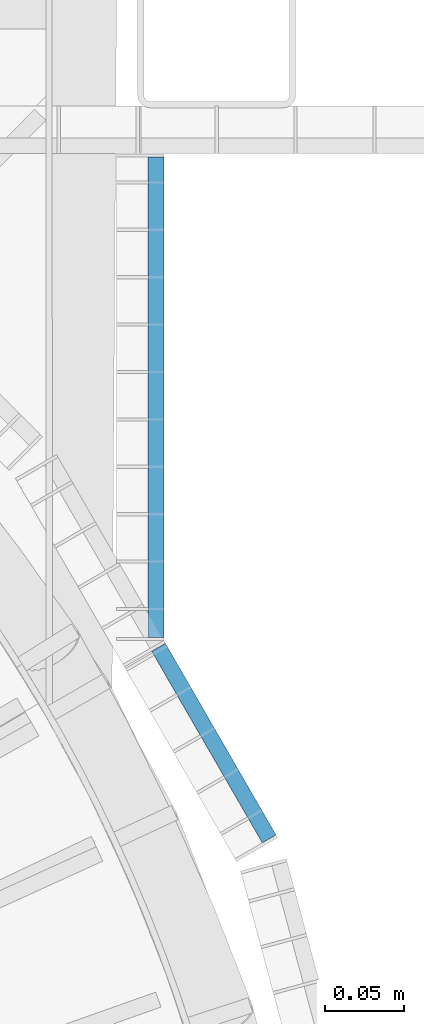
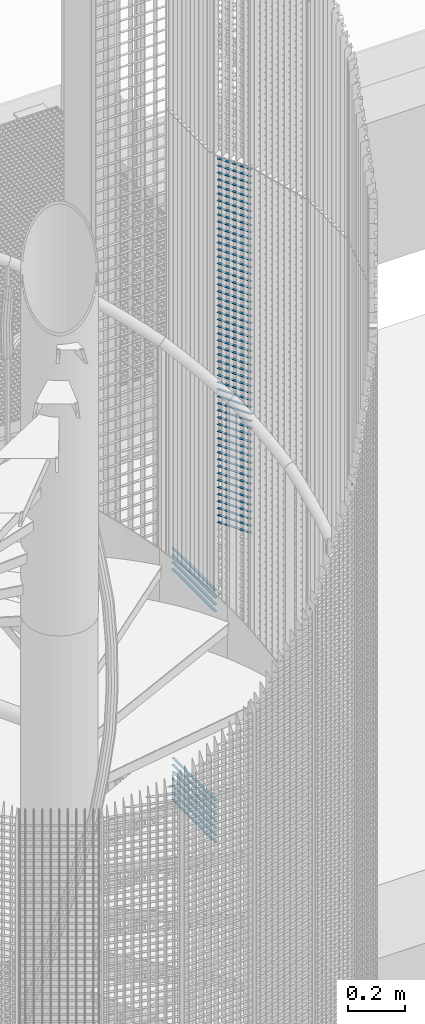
# One storey, part 280 of 1183: 64 beams, 2 elements without a shape of their own.
"""IFC2X3 building model written with IfcOpenShell, lengths in millimetres."""

from ifc_helpers import new_model, si_unit, frame, origin_with_axes, origin_2d_with_axis, place, context, subcontext, project, spatial, rectangle, extrude, material, type_object, element, aggregate, save


model = new_model("IFC2X3")

# Units and contexts
model_context = context("Model", 3, precision=1e-05, world=origin_with_axes())
body_context = subcontext(model_context, "Body", "Model", "MODEL_VIEW")
ifc_project = project(units=[si_unit("LENGTHUNIT", "METRE", prefix="MILLI"), si_unit("AREAUNIT", "SQUARE_METRE"), si_unit("VOLUMEUNIT", "CUBIC_METRE"), si_unit("MASSUNIT", "GRAM", prefix="KILO"), si_unit("TIMEUNIT", "SECOND"), si_unit("PLANEANGLEUNIT", "RADIAN"), si_unit("SOLIDANGLEUNIT", "STERADIAN"), si_unit("THERMODYNAMICTEMPERATUREUNIT", "DEGREE_CELSIUS"), si_unit("LUMINOUSINTENSITYUNIT", "LUMEN")], contexts=[model_context])

# Site, building, storey
site_placement = place(None, origin_with_axes())
site = spatial("IfcSite", under=ifc_project, at=site_placement, Name="Undefined", CompositionType="ELEMENT")
building_placement = place(site_placement, origin_with_axes())
building = spatial("IfcBuilding", under=site, at=building_placement, Name="Undefined", CompositionType="ELEMENT")
storey_placement = place(building_placement, origin_with_axes())
storey = spatial("IfcBuildingStorey", under=building, at=storey_placement, Name="Undefined", CompositionType="ELEMENT", Elevation=0.0)

# Assembly, beams
assembly_1_placement = place(storey_placement, origin_with_axes())
assembly_1 = element("IfcElementAssembly", 1, at=assembly_1_placement, inside=storey, Name="BORDURE", AssemblyPlace="NOTDEFINED", PredefinedType="NOTDEFINED")
ifc_material = material(Name="STEEL/S235JR")
beam_type = type_object("IfcBeamType", Name="PL2*10", PredefinedType="NOTDEFINED")
beam_1_placement = place(assembly_1_placement, frame((961.586915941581, 564.782669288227, 13020.0), z_axis=(1.0, 0.0, 0.0), x_axis=(0.0, 1.0, 0.0)))
beam_1 = element("IfcBeam", 2, at=beam_1_placement, type_object=beam_type, material=ifc_material, Name="ENTRETOISE", context=body_context, shape_type="SweptSolid", body=[
    extrude(rectangle(XDim=2.0, YDim=10.0, at=origin_2d_with_axis()), frame((303.999999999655, 0.0, 0.0), z_axis=(-1.0, 0.0, 0.0), x_axis=(0.0, -1.0, 0.0)), (0.0, 0.0, 1.0), 304.0),
])
beam_2_placement = place(assembly_1_placement, frame((961.586915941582, 564.78266928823, 12210.0), z_axis=(1.0, 0.0, 0.0), x_axis=(0.0, 1.0, 0.0)))
beam_2 = element("IfcBeam", 3, at=beam_2_placement, type_object=beam_type, material=ifc_material, Name="ENTRETOISE", context=body_context, shape_type="SweptSolid", body=[
    extrude(rectangle(XDim=2.0, YDim=10.0, at=origin_2d_with_axis()), frame((303.999999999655, 0.0, 0.0), z_axis=(-1.0, 0.0, 0.0), x_axis=(0.0, -1.0, 0.0)), (0.0, 0.0, 1.0), 304.0),
])
beam_3_placement = place(assembly_1_placement, frame((961.586915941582, 564.78266928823, 12180.0), z_axis=(1.0, 0.0, 0.0), x_axis=(0.0, 1.0, 0.0)))
beam_3 = element("IfcBeam", 4, at=beam_3_placement, type_object=beam_type, material=ifc_material, Name="ENTRETOISE", context=body_context, shape_type="SweptSolid", body=[
    extrude(rectangle(XDim=2.0, YDim=10.0, at=origin_2d_with_axis()), frame((303.999999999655, 0.0, 0.0), z_axis=(-1.0, 0.0, 0.0), x_axis=(0.0, -1.0, 0.0)), (0.0, 0.0, 1.0), 304.0),
])
beam_4_placement = place(assembly_1_placement, frame((961.586915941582, 564.782669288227, 13050.0), z_axis=(1.0, 0.0, 0.0), x_axis=(0.0, 1.0, 0.0)))
beam_4 = element("IfcBeam", 5, at=beam_4_placement, type_object=beam_type, material=ifc_material, Name="ENTRETOISE", context=body_context, shape_type="SweptSolid", body=[
    extrude(rectangle(XDim=2.0, YDim=10.0, at=origin_2d_with_axis()), frame((303.999999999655, 0.0, 0.0), z_axis=(-1.0, 0.0, 0.0), x_axis=(0.0, -1.0, 0.0)), (0.0, 0.0, 1.0), 304.0),
])
beam_5_placement = place(assembly_1_placement, frame((961.586915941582, 564.78266928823, 12150.0), z_axis=(1.0, 0.0, 0.0), x_axis=(0.0, 1.0, 0.0)))
beam_5 = element("IfcBeam", 6, at=beam_5_placement, type_object=beam_type, material=ifc_material, Name="ENTRETOISE", context=body_context, shape_type="SweptSolid", body=[
    extrude(rectangle(XDim=2.0, YDim=10.0, at=origin_2d_with_axis()), frame((303.999999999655, 0.0, 0.0), z_axis=(-1.0, 0.0, 0.0), x_axis=(0.0, -1.0, 0.0)), (0.0, 0.0, 1.0), 304.0),
])
beam_6_placement = place(assembly_1_placement, frame((961.586915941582, 564.78266928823, 12120.0), z_axis=(1.0, 0.0, 0.0), x_axis=(0.0, 1.0, 0.0)))
beam_6 = element("IfcBeam", 7, at=beam_6_placement, type_object=beam_type, material=ifc_material, Name="ENTRETOISE", context=body_context, shape_type="SweptSolid", body=[
    extrude(rectangle(XDim=2.0, YDim=10.0, at=origin_2d_with_axis()), frame((303.999999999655, 0.0, 0.0), z_axis=(-1.0, 0.0, 0.0), x_axis=(0.0, -1.0, 0.0)), (0.0, 0.0, 1.0), 304.0),
])
beam_7_placement = place(assembly_1_placement, frame((961.586915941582, 564.782669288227, 13080.0), z_axis=(1.0, 0.0, 0.0), x_axis=(0.0, 1.0, 0.0)))
beam_7 = element("IfcBeam", 8, at=beam_7_placement, type_object=beam_type, material=ifc_material, Name="ENTRETOISE", context=body_context, shape_type="SweptSolid", body=[
    extrude(rectangle(XDim=2.0, YDim=10.0, at=origin_2d_with_axis()), frame((303.999999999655, 0.0, 0.0), z_axis=(-1.0, 0.0, 0.0), x_axis=(0.0, -1.0, 0.0)), (0.0, 0.0, 1.0), 304.0),
])
beam_8_placement = place(assembly_1_placement, frame((961.586915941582, 564.78266928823, 12090.0), z_axis=(1.0, 0.0, 0.0), x_axis=(0.0, 1.0, 0.0)))
beam_8 = element("IfcBeam", 9, at=beam_8_placement, type_object=beam_type, material=ifc_material, Name="ENTRETOISE", context=body_context, shape_type="SweptSolid", body=[
    extrude(rectangle(XDim=2.0, YDim=10.0, at=origin_2d_with_axis()), frame((303.999999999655, 0.0, 0.0), z_axis=(-1.0, 0.0, 0.0), x_axis=(0.0, -1.0, 0.0)), (0.0, 0.0, 1.0), 304.0),
])
beam_9_placement = place(assembly_1_placement, frame((961.586915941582, 564.78266928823, 12060.0), z_axis=(1.0, 0.0, 0.0), x_axis=(0.0, 1.0, 0.0)))
beam_9 = element("IfcBeam", 10, at=beam_9_placement, type_object=beam_type, material=ifc_material, Name="ENTRETOISE", context=body_context, shape_type="SweptSolid", body=[
    extrude(rectangle(XDim=2.0, YDim=10.0, at=origin_2d_with_axis()), frame((303.999999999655, 0.0, 0.0), z_axis=(-1.0, 0.0, 0.0), x_axis=(0.0, -1.0, 0.0)), (0.0, 0.0, 1.0), 304.0),
])
beam_10_placement = place(assembly_1_placement, frame((961.586915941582, 564.782669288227, 13110.0), z_axis=(1.0, 0.0, 0.0), x_axis=(0.0, 1.0, 0.0)))
beam_10 = element("IfcBeam", 11, at=beam_10_placement, type_object=beam_type, material=ifc_material, Name="ENTRETOISE", context=body_context, shape_type="SweptSolid", body=[
    extrude(rectangle(XDim=2.0, YDim=10.0, at=origin_2d_with_axis()), frame((303.999999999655, 0.0, 0.0), z_axis=(-1.0, 0.0, 0.0), x_axis=(0.0, -1.0, 0.0)), (0.0, 0.0, 1.0), 304.0),
])
beam_11_placement = place(assembly_1_placement, frame((961.586915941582, 564.782669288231, 12030.0), z_axis=(1.0, 0.0, 0.0), x_axis=(0.0, 1.0, 0.0)))
beam_11 = element("IfcBeam", 12, at=beam_11_placement, type_object=beam_type, material=ifc_material, Name="ENTRETOISE", context=body_context, shape_type="SweptSolid", body=[
    extrude(rectangle(XDim=2.0, YDim=10.0, at=origin_2d_with_axis()), frame((303.999999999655, 0.0, 0.0), z_axis=(-1.0, 0.0, 0.0), x_axis=(0.0, -1.0, 0.0)), (0.0, 0.0, 1.0), 304.0),
])
aggregate(assembly_1, [beam_1, beam_2, beam_3, beam_4, beam_5, beam_6, beam_7, beam_8, beam_9, beam_10, beam_11])

assembly_2_placement = place(storey_placement, origin_with_axes())
assembly_2 = element("IfcElementAssembly", 13, at=assembly_2_placement, inside=storey, Name="BORDURE", AssemblyPlace="NOTDEFINED", PredefinedType="NOTDEFINED")
beam_12_placement = place(assembly_2_placement, frame((1033.29994283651, 437.231999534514, 14970.0), z_axis=(0.866030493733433, 0.499991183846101, 0.0), x_axis=(-0.499991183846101, 0.866030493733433, 0.0)))
beam_12 = element("IfcBeam", 14, at=beam_12_placement, type_object=beam_type, material=ifc_material, Name="ENTRETOISE", context=body_context, shape_type="SweptSolid", body=[
    extrude(rectangle(XDim=2.0, YDim=10.0, at=origin_2d_with_axis()), frame((140.102470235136, 0.0, 0.0), z_axis=(-1.0, 0.0, 0.0), x_axis=(0.0, -1.0, 0.0)), (0.0, 0.0, 1.0), 140.1),
])
beam_13_placement = place(assembly_2_placement, frame((1033.29994283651, 437.231999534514, 14940.0), z_axis=(0.866030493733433, 0.499991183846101, 0.0), x_axis=(-0.499991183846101, 0.866030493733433, 0.0)))
beam_13 = element("IfcBeam", 15, at=beam_13_placement, type_object=beam_type, material=ifc_material, Name="ENTRETOISE", context=body_context, shape_type="SweptSolid", body=[
    extrude(rectangle(XDim=2.0, YDim=10.0, at=origin_2d_with_axis()), frame((140.102470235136, 0.0, 0.0), z_axis=(-1.0, 0.0, 0.0), x_axis=(0.0, -1.0, 0.0)), (0.0, 0.0, 1.0), 140.1),
])
beam_14_placement = place(assembly_2_placement, frame((1033.29994283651, 437.231999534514, 14910.0), z_axis=(0.866030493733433, 0.499991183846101, 0.0), x_axis=(-0.499991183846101, 0.866030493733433, 0.0)))
beam_14 = element("IfcBeam", 16, at=beam_14_placement, type_object=beam_type, material=ifc_material, Name="ENTRETOISE", context=body_context, shape_type="SweptSolid", body=[
    extrude(rectangle(XDim=2.0, YDim=10.0, at=origin_2d_with_axis()), frame((140.102470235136, 0.0, 0.0), z_axis=(-1.0, 0.0, 0.0), x_axis=(0.0, -1.0, 0.0)), (0.0, 0.0, 1.0), 140.1),
])
beam_15_placement = place(assembly_2_placement, frame((1033.29994283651, 437.231999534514, 14880.0), z_axis=(0.866030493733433, 0.499991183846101, 0.0), x_axis=(-0.499991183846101, 0.866030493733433, 0.0)))
beam_15 = element("IfcBeam", 17, at=beam_15_placement, type_object=beam_type, material=ifc_material, Name="ENTRETOISE", context=body_context, shape_type="SweptSolid", body=[
    extrude(rectangle(XDim=2.0, YDim=10.0, at=origin_2d_with_axis()), frame((140.102470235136, 0.0, 0.0), z_axis=(-1.0, 0.0, 0.0), x_axis=(0.0, -1.0, 0.0)), (0.0, 0.0, 1.0), 140.1),
])
beam_16_placement = place(assembly_2_placement, frame((1033.29994283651, 437.231999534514, 14850.0), z_axis=(0.866030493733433, 0.499991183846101, 0.0), x_axis=(-0.499991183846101, 0.866030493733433, 0.0)))
beam_16 = element("IfcBeam", 18, at=beam_16_placement, type_object=beam_type, material=ifc_material, Name="ENTRETOISE", context=body_context, shape_type="SweptSolid", body=[
    extrude(rectangle(XDim=2.0, YDim=10.0, at=origin_2d_with_axis()), frame((140.102470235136, 0.0, 0.0), z_axis=(-1.0, 0.0, 0.0), x_axis=(0.0, -1.0, 0.0)), (0.0, 0.0, 1.0), 140.1),
])
beam_17_placement = place(assembly_2_placement, frame((1033.29994283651, 437.231999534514, 14820.0), z_axis=(0.866030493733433, 0.499991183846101, 0.0), x_axis=(-0.499991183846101, 0.866030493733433, 0.0)))
beam_17 = element("IfcBeam", 19, at=beam_17_placement, type_object=beam_type, material=ifc_material, Name="ENTRETOISE", context=body_context, shape_type="SweptSolid", body=[
    extrude(rectangle(XDim=2.0, YDim=10.0, at=origin_2d_with_axis()), frame((140.102470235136, 0.0, 0.0), z_axis=(-1.0, 0.0, 0.0), x_axis=(0.0, -1.0, 0.0)), (0.0, 0.0, 1.0), 140.1),
])
beam_18_placement = place(assembly_2_placement, frame((1033.29994283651, 437.231999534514, 14790.0), z_axis=(0.866030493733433, 0.499991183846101, 0.0), x_axis=(-0.499991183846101, 0.866030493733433, 0.0)))
beam_18 = element("IfcBeam", 20, at=beam_18_placement, type_object=beam_type, material=ifc_material, Name="ENTRETOISE", context=body_context, shape_type="SweptSolid", body=[
    extrude(rectangle(XDim=2.0, YDim=10.0, at=origin_2d_with_axis()), frame((140.102470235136, 0.0, 0.0), z_axis=(-1.0, 0.0, 0.0), x_axis=(0.0, -1.0, 0.0)), (0.0, 0.0, 1.0), 140.1),
])
beam_19_placement = place(assembly_2_placement, frame((1033.29994283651, 437.231999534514, 14760.0), z_axis=(0.866030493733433, 0.499991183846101, 0.0), x_axis=(-0.499991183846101, 0.866030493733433, 0.0)))
beam_19 = element("IfcBeam", 21, at=beam_19_placement, type_object=beam_type, material=ifc_material, Name="ENTRETOISE", context=body_context, shape_type="SweptSolid", body=[
    extrude(rectangle(XDim=2.0, YDim=10.0, at=origin_2d_with_axis()), frame((140.102470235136, 0.0, 0.0), z_axis=(-1.0, 0.0, 0.0), x_axis=(0.0, -1.0, 0.0)), (0.0, 0.0, 1.0), 140.1),
])
beam_20_placement = place(assembly_2_placement, frame((1033.29994283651, 437.231999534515, 14730.0), z_axis=(0.866030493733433, 0.499991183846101, 0.0), x_axis=(-0.499991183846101, 0.866030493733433, 0.0)))
beam_20 = element("IfcBeam", 22, at=beam_20_placement, type_object=beam_type, material=ifc_material, Name="ENTRETOISE", context=body_context, shape_type="SweptSolid", body=[
    extrude(rectangle(XDim=2.0, YDim=10.0, at=origin_2d_with_axis()), frame((140.102470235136, 0.0, 0.0), z_axis=(-1.0, 0.0, 0.0), x_axis=(0.0, -1.0, 0.0)), (0.0, 0.0, 1.0), 140.1),
])
beam_21_placement = place(assembly_2_placement, frame((1033.29994283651, 437.231999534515, 14700.0), z_axis=(0.866030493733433, 0.499991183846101, 0.0), x_axis=(-0.499991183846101, 0.866030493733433, 0.0)))
beam_21 = element("IfcBeam", 23, at=beam_21_placement, type_object=beam_type, material=ifc_material, Name="ENTRETOISE", context=body_context, shape_type="SweptSolid", body=[
    extrude(rectangle(XDim=2.0, YDim=10.0, at=origin_2d_with_axis()), frame((140.102470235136, 0.0, 0.0), z_axis=(-1.0, 0.0, 0.0), x_axis=(0.0, -1.0, 0.0)), (0.0, 0.0, 1.0), 140.1),
])
beam_22_placement = place(assembly_2_placement, frame((1033.29994283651, 437.231999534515, 14670.0), z_axis=(0.866030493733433, 0.499991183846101, 0.0), x_axis=(-0.499991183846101, 0.866030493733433, 0.0)))
beam_22 = element("IfcBeam", 24, at=beam_22_placement, type_object=beam_type, material=ifc_material, Name="ENTRETOISE", context=body_context, shape_type="SweptSolid", body=[
    extrude(rectangle(XDim=2.0, YDim=10.0, at=origin_2d_with_axis()), frame((140.102470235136, 0.0, 0.0), z_axis=(-1.0, 0.0, 0.0), x_axis=(0.0, -1.0, 0.0)), (0.0, 0.0, 1.0), 140.1),
])
beam_23_placement = place(assembly_2_placement, frame((1033.29994283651, 437.231999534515, 14640.0), z_axis=(0.866030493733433, 0.499991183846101, 0.0), x_axis=(-0.499991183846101, 0.866030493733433, 0.0)))
beam_23 = element("IfcBeam", 25, at=beam_23_placement, type_object=beam_type, material=ifc_material, Name="ENTRETOISE", context=body_context, shape_type="SweptSolid", body=[
    extrude(rectangle(XDim=2.0, YDim=10.0, at=origin_2d_with_axis()), frame((140.102470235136, 0.0, 0.0), z_axis=(-1.0, 0.0, 0.0), x_axis=(0.0, -1.0, 0.0)), (0.0, 0.0, 1.0), 140.1),
])
beam_24_placement = place(assembly_2_placement, frame((1033.29994283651, 437.231999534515, 14610.0), z_axis=(0.866030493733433, 0.499991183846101, 0.0), x_axis=(-0.499991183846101, 0.866030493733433, 0.0)))
beam_24 = element("IfcBeam", 26, at=beam_24_placement, type_object=beam_type, material=ifc_material, Name="ENTRETOISE", context=body_context, shape_type="SweptSolid", body=[
    extrude(rectangle(XDim=2.0, YDim=10.0, at=origin_2d_with_axis()), frame((140.102470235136, 0.0, 0.0), z_axis=(-1.0, 0.0, 0.0), x_axis=(0.0, -1.0, 0.0)), (0.0, 0.0, 1.0), 140.1),
])
beam_25_placement = place(assembly_2_placement, frame((1033.29994283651, 437.231999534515, 14580.0), z_axis=(0.866030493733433, 0.499991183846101, 0.0), x_axis=(-0.499991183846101, 0.866030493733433, 0.0)))
beam_25 = element("IfcBeam", 27, at=beam_25_placement, type_object=beam_type, material=ifc_material, Name="ENTRETOISE", context=body_context, shape_type="SweptSolid", body=[
    extrude(rectangle(XDim=2.0, YDim=10.0, at=origin_2d_with_axis()), frame((140.102470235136, 0.0, 0.0), z_axis=(-1.0, 0.0, 0.0), x_axis=(0.0, -1.0, 0.0)), (0.0, 0.0, 1.0), 140.1),
])
beam_26_placement = place(assembly_2_placement, frame((1033.29994283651, 437.231999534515, 14550.0), z_axis=(0.866030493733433, 0.499991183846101, 0.0), x_axis=(-0.499991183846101, 0.866030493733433, 0.0)))
beam_26 = element("IfcBeam", 28, at=beam_26_placement, type_object=beam_type, material=ifc_material, Name="ENTRETOISE", context=body_context, shape_type="SweptSolid", body=[
    extrude(rectangle(XDim=2.0, YDim=10.0, at=origin_2d_with_axis()), frame((140.102470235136, 0.0, 0.0), z_axis=(-1.0, 0.0, 0.0), x_axis=(0.0, -1.0, 0.0)), (0.0, 0.0, 1.0), 140.1),
])
beam_27_placement = place(assembly_2_placement, frame((1033.29994283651, 437.231999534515, 14520.0), z_axis=(0.866030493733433, 0.499991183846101, 0.0), x_axis=(-0.499991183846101, 0.866030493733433, 0.0)))
beam_27 = element("IfcBeam", 29, at=beam_27_placement, type_object=beam_type, material=ifc_material, Name="ENTRETOISE", context=body_context, shape_type="SweptSolid", body=[
    extrude(rectangle(XDim=2.0, YDim=10.0, at=origin_2d_with_axis()), frame((140.102470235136, 0.0, 0.0), z_axis=(-1.0, 0.0, 0.0), x_axis=(0.0, -1.0, 0.0)), (0.0, 0.0, 1.0), 140.1),
])
beam_28_placement = place(assembly_2_placement, frame((1033.29994283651, 437.231999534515, 14490.0), z_axis=(0.866030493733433, 0.499991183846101, 0.0), x_axis=(-0.499991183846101, 0.866030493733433, 0.0)))
beam_28 = element("IfcBeam", 30, at=beam_28_placement, type_object=beam_type, material=ifc_material, Name="ENTRETOISE", context=body_context, shape_type="SweptSolid", body=[
    extrude(rectangle(XDim=2.0, YDim=10.0, at=origin_2d_with_axis()), frame((140.102470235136, 0.0, 0.0), z_axis=(-1.0, 0.0, 0.0), x_axis=(0.0, -1.0, 0.0)), (0.0, 0.0, 1.0), 140.1),
])
beam_29_placement = place(assembly_2_placement, frame((1033.29994283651, 437.231999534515, 14460.0), z_axis=(0.866030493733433, 0.499991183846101, 0.0), x_axis=(-0.499991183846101, 0.866030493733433, 0.0)))
beam_29 = element("IfcBeam", 31, at=beam_29_placement, type_object=beam_type, material=ifc_material, Name="ENTRETOISE", context=body_context, shape_type="SweptSolid", body=[
    extrude(rectangle(XDim=2.0, YDim=10.0, at=origin_2d_with_axis()), frame((140.102470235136, 0.0, 0.0), z_axis=(-1.0, 0.0, 0.0), x_axis=(0.0, -1.0, 0.0)), (0.0, 0.0, 1.0), 140.1),
])
beam_30_placement = place(assembly_2_placement, frame((1033.29994283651, 437.231999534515, 14430.0), z_axis=(0.866030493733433, 0.499991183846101, 0.0), x_axis=(-0.499991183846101, 0.866030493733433, 0.0)))
beam_30 = element("IfcBeam", 32, at=beam_30_placement, type_object=beam_type, material=ifc_material, Name="ENTRETOISE", context=body_context, shape_type="SweptSolid", body=[
    extrude(rectangle(XDim=2.0, YDim=10.0, at=origin_2d_with_axis()), frame((140.102470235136, 0.0, 0.0), z_axis=(-1.0, 0.0, 0.0), x_axis=(0.0, -1.0, 0.0)), (0.0, 0.0, 1.0), 140.1),
])
beam_31_placement = place(assembly_2_placement, frame((1033.29994283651, 437.231999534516, 14400.0), z_axis=(0.866030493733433, 0.499991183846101, 0.0), x_axis=(-0.499991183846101, 0.866030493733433, 0.0)))
beam_31 = element("IfcBeam", 33, at=beam_31_placement, type_object=beam_type, material=ifc_material, Name="ENTRETOISE", context=body_context, shape_type="SweptSolid", body=[
    extrude(rectangle(XDim=2.0, YDim=10.0, at=origin_2d_with_axis()), frame((140.102470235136, 0.0, 0.0), z_axis=(-1.0, 0.0, 0.0), x_axis=(0.0, -1.0, 0.0)), (0.0, 0.0, 1.0), 140.1),
])
beam_32_placement = place(assembly_2_placement, frame((1033.29994283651, 437.231999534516, 14370.0), z_axis=(0.866030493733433, 0.499991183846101, 0.0), x_axis=(-0.499991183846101, 0.866030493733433, 0.0)))
beam_32 = element("IfcBeam", 34, at=beam_32_placement, type_object=beam_type, material=ifc_material, Name="ENTRETOISE", context=body_context, shape_type="SweptSolid", body=[
    extrude(rectangle(XDim=2.0, YDim=10.0, at=origin_2d_with_axis()), frame((140.102470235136, 0.0, 0.0), z_axis=(-1.0, 0.0, 0.0), x_axis=(0.0, -1.0, 0.0)), (0.0, 0.0, 1.0), 140.1),
])
beam_33_placement = place(assembly_2_placement, frame((1033.29994283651, 437.231999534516, 14340.0), z_axis=(0.866030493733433, 0.499991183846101, 0.0), x_axis=(-0.499991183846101, 0.866030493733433, 0.0)))
beam_33 = element("IfcBeam", 35, at=beam_33_placement, type_object=beam_type, material=ifc_material, Name="ENTRETOISE", context=body_context, shape_type="SweptSolid", body=[
    extrude(rectangle(XDim=2.0, YDim=10.0, at=origin_2d_with_axis()), frame((140.102470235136, 0.0, 0.0), z_axis=(-1.0, 0.0, 0.0), x_axis=(0.0, -1.0, 0.0)), (0.0, 0.0, 1.0), 140.1),
])
beam_34_placement = place(assembly_2_placement, frame((1033.29994283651, 437.231999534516, 14310.0), z_axis=(0.866030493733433, 0.499991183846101, 0.0), x_axis=(-0.499991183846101, 0.866030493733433, 0.0)))
beam_34 = element("IfcBeam", 36, at=beam_34_placement, type_object=beam_type, material=ifc_material, Name="ENTRETOISE", context=body_context, shape_type="SweptSolid", body=[
    extrude(rectangle(XDim=2.0, YDim=10.0, at=origin_2d_with_axis()), frame((140.102470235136, 0.0, 0.0), z_axis=(-1.0, 0.0, 0.0), x_axis=(0.0, -1.0, 0.0)), (0.0, 0.0, 1.0), 140.1),
])
beam_35_placement = place(assembly_2_placement, frame((1033.29994283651, 437.231999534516, 14280.0), z_axis=(0.866030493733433, 0.499991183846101, 0.0), x_axis=(-0.499991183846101, 0.866030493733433, 0.0)))
beam_35 = element("IfcBeam", 37, at=beam_35_placement, type_object=beam_type, material=ifc_material, Name="ENTRETOISE", context=body_context, shape_type="SweptSolid", body=[
    extrude(rectangle(XDim=2.0, YDim=10.0, at=origin_2d_with_axis()), frame((140.102470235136, 0.0, 0.0), z_axis=(-1.0, 0.0, 0.0), x_axis=(0.0, -1.0, 0.0)), (0.0, 0.0, 1.0), 140.1),
])
beam_36_placement = place(assembly_2_placement, frame((1033.29994283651, 437.231999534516, 14250.0), z_axis=(0.866030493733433, 0.499991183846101, 0.0), x_axis=(-0.499991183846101, 0.866030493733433, 0.0)))
beam_36 = element("IfcBeam", 38, at=beam_36_placement, type_object=beam_type, material=ifc_material, Name="ENTRETOISE", context=body_context, shape_type="SweptSolid", body=[
    extrude(rectangle(XDim=2.0, YDim=10.0, at=origin_2d_with_axis()), frame((140.102470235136, 0.0, 0.0), z_axis=(-1.0, 0.0, 0.0), x_axis=(0.0, -1.0, 0.0)), (0.0, 0.0, 1.0), 140.1),
])
beam_37_placement = place(assembly_2_placement, frame((1033.29994283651, 437.231999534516, 14220.0), z_axis=(0.866030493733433, 0.499991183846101, 0.0), x_axis=(-0.499991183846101, 0.866030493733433, 0.0)))
beam_37 = element("IfcBeam", 39, at=beam_37_placement, type_object=beam_type, material=ifc_material, Name="ENTRETOISE", context=body_context, shape_type="SweptSolid", body=[
    extrude(rectangle(XDim=2.0, YDim=10.0, at=origin_2d_with_axis()), frame((140.102470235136, 0.0, 0.0), z_axis=(-1.0, 0.0, 0.0), x_axis=(0.0, -1.0, 0.0)), (0.0, 0.0, 1.0), 140.1),
])
beam_38_placement = place(assembly_2_placement, frame((1033.29994283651, 437.231999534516, 14190.0), z_axis=(0.866030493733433, 0.499991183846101, 0.0), x_axis=(-0.499991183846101, 0.866030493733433, 0.0)))
beam_38 = element("IfcBeam", 40, at=beam_38_placement, type_object=beam_type, material=ifc_material, Name="ENTRETOISE", context=body_context, shape_type="SweptSolid", body=[
    extrude(rectangle(XDim=2.0, YDim=10.0, at=origin_2d_with_axis()), frame((140.102470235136, 0.0, 0.0), z_axis=(-1.0, 0.0, 0.0), x_axis=(0.0, -1.0, 0.0)), (0.0, 0.0, 1.0), 140.1),
])
beam_39_placement = place(assembly_2_placement, frame((1033.29994283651, 437.231999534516, 14160.0), z_axis=(0.866030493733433, 0.499991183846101, 0.0), x_axis=(-0.499991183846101, 0.866030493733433, 0.0)))
beam_39 = element("IfcBeam", 41, at=beam_39_placement, type_object=beam_type, material=ifc_material, Name="ENTRETOISE", context=body_context, shape_type="SweptSolid", body=[
    extrude(rectangle(XDim=2.0, YDim=10.0, at=origin_2d_with_axis()), frame((140.102470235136, 0.0, 0.0), z_axis=(-1.0, 0.0, 0.0), x_axis=(0.0, -1.0, 0.0)), (0.0, 0.0, 1.0), 140.1),
])
beam_40_placement = place(assembly_2_placement, frame((1033.29994283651, 437.231999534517, 14130.0), z_axis=(0.866030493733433, 0.499991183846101, 0.0), x_axis=(-0.499991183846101, 0.866030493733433, 0.0)))
beam_40 = element("IfcBeam", 42, at=beam_40_placement, type_object=beam_type, material=ifc_material, Name="ENTRETOISE", context=body_context, shape_type="SweptSolid", body=[
    extrude(rectangle(XDim=2.0, YDim=10.0, at=origin_2d_with_axis()), frame((140.102470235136, 0.0, 0.0), z_axis=(-1.0, 0.0, 0.0), x_axis=(0.0, -1.0, 0.0)), (0.0, 0.0, 1.0), 140.1),
])
beam_41_placement = place(assembly_2_placement, frame((1033.29994283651, 437.231999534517, 14100.0), z_axis=(0.866030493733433, 0.499991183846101, 0.0), x_axis=(-0.499991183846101, 0.866030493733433, 0.0)))
beam_41 = element("IfcBeam", 43, at=beam_41_placement, type_object=beam_type, material=ifc_material, Name="ENTRETOISE", context=body_context, shape_type="SweptSolid", body=[
    extrude(rectangle(XDim=2.0, YDim=10.0, at=origin_2d_with_axis()), frame((140.102470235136, 0.0, 0.0), z_axis=(-1.0, 0.0, 0.0), x_axis=(0.0, -1.0, 0.0)), (0.0, 0.0, 1.0), 140.1),
])
beam_42_placement = place(assembly_2_placement, frame((1033.29994283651, 437.231999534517, 14070.0), z_axis=(0.866030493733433, 0.499991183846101, 0.0), x_axis=(-0.499991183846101, 0.866030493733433, 0.0)))
beam_42 = element("IfcBeam", 44, at=beam_42_placement, type_object=beam_type, material=ifc_material, Name="ENTRETOISE", context=body_context, shape_type="SweptSolid", body=[
    extrude(rectangle(XDim=2.0, YDim=10.0, at=origin_2d_with_axis()), frame((140.102470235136, 0.0, 0.0), z_axis=(-1.0, 0.0, 0.0), x_axis=(0.0, -1.0, 0.0)), (0.0, 0.0, 1.0), 140.1),
])
beam_43_placement = place(assembly_2_placement, frame((1033.29994283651, 437.231999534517, 14040.0), z_axis=(0.866030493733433, 0.499991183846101, 0.0), x_axis=(-0.499991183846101, 0.866030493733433, 0.0)))
beam_43 = element("IfcBeam", 45, at=beam_43_placement, type_object=beam_type, material=ifc_material, Name="ENTRETOISE", context=body_context, shape_type="SweptSolid", body=[
    extrude(rectangle(XDim=2.0, YDim=10.0, at=origin_2d_with_axis()), frame((140.102470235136, 0.0, 0.0), z_axis=(-1.0, 0.0, 0.0), x_axis=(0.0, -1.0, 0.0)), (0.0, 0.0, 1.0), 140.1),
])
beam_44_placement = place(assembly_2_placement, frame((1033.29994283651, 437.231999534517, 14010.0), z_axis=(0.866030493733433, 0.499991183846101, 0.0), x_axis=(-0.499991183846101, 0.866030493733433, 0.0)))
beam_44 = element("IfcBeam", 46, at=beam_44_placement, type_object=beam_type, material=ifc_material, Name="ENTRETOISE", context=body_context, shape_type="SweptSolid", body=[
    extrude(rectangle(XDim=2.0, YDim=10.0, at=origin_2d_with_axis()), frame((140.102470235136, 0.0, 0.0), z_axis=(-1.0, 0.0, 0.0), x_axis=(0.0, -1.0, 0.0)), (0.0, 0.0, 1.0), 140.1),
])
beam_45_placement = place(assembly_2_placement, frame((1033.29994283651, 437.231999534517, 13980.0), z_axis=(0.866030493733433, 0.499991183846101, 0.0), x_axis=(-0.499991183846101, 0.866030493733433, 0.0)))
beam_45 = element("IfcBeam", 47, at=beam_45_placement, type_object=beam_type, material=ifc_material, Name="ENTRETOISE", context=body_context, shape_type="SweptSolid", body=[
    extrude(rectangle(XDim=2.0, YDim=10.0, at=origin_2d_with_axis()), frame((140.102470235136, 0.0, 0.0), z_axis=(-1.0, 0.0, 0.0), x_axis=(0.0, -1.0, 0.0)), (0.0, 0.0, 1.0), 140.1),
])
beam_46_placement = place(assembly_2_placement, frame((1033.29994283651, 437.231999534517, 13950.0), z_axis=(0.866030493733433, 0.499991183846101, 0.0), x_axis=(-0.499991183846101, 0.866030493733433, 0.0)))
beam_46 = element("IfcBeam", 48, at=beam_46_placement, type_object=beam_type, material=ifc_material, Name="ENTRETOISE", context=body_context, shape_type="SweptSolid", body=[
    extrude(rectangle(XDim=2.0, YDim=10.0, at=origin_2d_with_axis()), frame((140.102470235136, 0.0, 0.0), z_axis=(-1.0, 0.0, 0.0), x_axis=(0.0, -1.0, 0.0)), (0.0, 0.0, 1.0), 140.1),
])
beam_47_placement = place(assembly_2_placement, frame((1033.29994283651, 437.231999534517, 13920.0), z_axis=(0.866030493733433, 0.499991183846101, 0.0), x_axis=(-0.499991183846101, 0.866030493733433, 0.0)))
beam_47 = element("IfcBeam", 49, at=beam_47_placement, type_object=beam_type, material=ifc_material, Name="ENTRETOISE", context=body_context, shape_type="SweptSolid", body=[
    extrude(rectangle(XDim=2.0, YDim=10.0, at=origin_2d_with_axis()), frame((140.102470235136, 0.0, 0.0), z_axis=(-1.0, 0.0, 0.0), x_axis=(0.0, -1.0, 0.0)), (0.0, 0.0, 1.0), 140.1),
])
beam_48_placement = place(assembly_2_placement, frame((1033.29994283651, 437.231999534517, 13890.0), z_axis=(0.866030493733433, 0.499991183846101, 0.0), x_axis=(-0.499991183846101, 0.866030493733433, 0.0)))
beam_48 = element("IfcBeam", 50, at=beam_48_placement, type_object=beam_type, material=ifc_material, Name="ENTRETOISE", context=body_context, shape_type="SweptSolid", body=[
    extrude(rectangle(XDim=2.0, YDim=10.0, at=origin_2d_with_axis()), frame((140.102470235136, 0.0, 0.0), z_axis=(-1.0, 0.0, 0.0), x_axis=(0.0, -1.0, 0.0)), (0.0, 0.0, 1.0), 140.1),
])
beam_49_placement = place(assembly_2_placement, frame((1033.29994283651, 437.231999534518, 13860.0), z_axis=(0.866030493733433, 0.499991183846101, 0.0), x_axis=(-0.499991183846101, 0.866030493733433, 0.0)))
beam_49 = element("IfcBeam", 51, at=beam_49_placement, type_object=beam_type, material=ifc_material, Name="ENTRETOISE", context=body_context, shape_type="SweptSolid", body=[
    extrude(rectangle(XDim=2.0, YDim=10.0, at=origin_2d_with_axis()), frame((140.102470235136, 0.0, 0.0), z_axis=(-1.0, 0.0, 0.0), x_axis=(0.0, -1.0, 0.0)), (0.0, 0.0, 1.0), 140.1),
])
beam_50_placement = place(assembly_2_placement, frame((1033.29994283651, 437.231999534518, 13830.0), z_axis=(0.866030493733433, 0.499991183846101, 0.0), x_axis=(-0.499991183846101, 0.866030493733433, 0.0)))
beam_50 = element("IfcBeam", 52, at=beam_50_placement, type_object=beam_type, material=ifc_material, Name="ENTRETOISE", context=body_context, shape_type="SweptSolid", body=[
    extrude(rectangle(XDim=2.0, YDim=10.0, at=origin_2d_with_axis()), frame((140.102470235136, 0.0, 0.0), z_axis=(-1.0, 0.0, 0.0), x_axis=(0.0, -1.0, 0.0)), (0.0, 0.0, 1.0), 140.1),
])
beam_51_placement = place(assembly_2_placement, frame((1033.29994283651, 437.231999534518, 13800.0), z_axis=(0.866030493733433, 0.499991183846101, 0.0), x_axis=(-0.499991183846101, 0.866030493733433, 0.0)))
beam_51 = element("IfcBeam", 53, at=beam_51_placement, type_object=beam_type, material=ifc_material, Name="ENTRETOISE", context=body_context, shape_type="SweptSolid", body=[
    extrude(rectangle(XDim=2.0, YDim=10.0, at=origin_2d_with_axis()), frame((140.102470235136, 0.0, 0.0), z_axis=(-1.0, 0.0, 0.0), x_axis=(0.0, -1.0, 0.0)), (0.0, 0.0, 1.0), 140.1),
])
beam_52_placement = place(assembly_2_placement, frame((1033.29994283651, 437.231999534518, 13770.0), z_axis=(0.866030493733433, 0.499991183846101, 0.0), x_axis=(-0.499991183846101, 0.866030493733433, 0.0)))
beam_52 = element("IfcBeam", 54, at=beam_52_placement, type_object=beam_type, material=ifc_material, Name="ENTRETOISE", context=body_context, shape_type="SweptSolid", body=[
    extrude(rectangle(XDim=2.0, YDim=10.0, at=origin_2d_with_axis()), frame((140.102470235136, 0.0, 0.0), z_axis=(-1.0, 0.0, 0.0), x_axis=(0.0, -1.0, 0.0)), (0.0, 0.0, 1.0), 140.1),
])
beam_53_placement = place(assembly_2_placement, frame((1033.29994283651, 437.231999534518, 13740.0), z_axis=(0.866030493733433, 0.499991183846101, 0.0), x_axis=(-0.499991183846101, 0.866030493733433, 0.0)))
beam_53 = element("IfcBeam", 55, at=beam_53_placement, type_object=beam_type, material=ifc_material, Name="ENTRETOISE", context=body_context, shape_type="SweptSolid", body=[
    extrude(rectangle(XDim=2.0, YDim=10.0, at=origin_2d_with_axis()), frame((140.102470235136, 0.0, 0.0), z_axis=(-1.0, 0.0, 0.0), x_axis=(0.0, -1.0, 0.0)), (0.0, 0.0, 1.0), 140.1),
])
beam_54_placement = place(assembly_2_placement, frame((1033.29994283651, 437.231999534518, 13710.0), z_axis=(0.866030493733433, 0.499991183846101, 0.0), x_axis=(-0.499991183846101, 0.866030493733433, 0.0)))
beam_54 = element("IfcBeam", 56, at=beam_54_placement, type_object=beam_type, material=ifc_material, Name="ENTRETOISE", context=body_context, shape_type="SweptSolid", body=[
    extrude(rectangle(XDim=2.0, YDim=10.0, at=origin_2d_with_axis()), frame((140.102470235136, 0.0, 0.0), z_axis=(-1.0, 0.0, 0.0), x_axis=(0.0, -1.0, 0.0)), (0.0, 0.0, 1.0), 140.1),
])
beam_55_placement = place(assembly_2_placement, frame((1033.29994283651, 437.231999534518, 13680.0), z_axis=(0.866030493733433, 0.499991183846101, 0.0), x_axis=(-0.499991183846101, 0.866030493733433, 0.0)))
beam_55 = element("IfcBeam", 57, at=beam_55_placement, type_object=beam_type, material=ifc_material, Name="ENTRETOISE", context=body_context, shape_type="SweptSolid", body=[
    extrude(rectangle(XDim=2.0, YDim=10.0, at=origin_2d_with_axis()), frame((140.102470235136, 0.0, 0.0), z_axis=(-1.0, 0.0, 0.0), x_axis=(0.0, -1.0, 0.0)), (0.0, 0.0, 1.0), 140.1),
])
beam_56_placement = place(assembly_2_placement, frame((1033.29994283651, 437.231999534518, 13650.0), z_axis=(0.866030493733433, 0.499991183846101, 0.0), x_axis=(-0.499991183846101, 0.866030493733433, 0.0)))
beam_56 = element("IfcBeam", 58, at=beam_56_placement, type_object=beam_type, material=ifc_material, Name="ENTRETOISE", context=body_context, shape_type="SweptSolid", body=[
    extrude(rectangle(XDim=2.0, YDim=10.0, at=origin_2d_with_axis()), frame((140.102470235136, 0.0, 0.0), z_axis=(-1.0, 0.0, 0.0), x_axis=(0.0, -1.0, 0.0)), (0.0, 0.0, 1.0), 140.1),
])
beam_57_placement = place(assembly_2_placement, frame((1033.29994283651, 437.231999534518, 13620.0), z_axis=(0.866030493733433, 0.499991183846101, 0.0), x_axis=(-0.499991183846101, 0.866030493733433, 0.0)))
beam_57 = element("IfcBeam", 59, at=beam_57_placement, type_object=beam_type, material=ifc_material, Name="ENTRETOISE", context=body_context, shape_type="SweptSolid", body=[
    extrude(rectangle(XDim=2.0, YDim=10.0, at=origin_2d_with_axis()), frame((140.102470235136, 0.0, 0.0), z_axis=(-1.0, 0.0, 0.0), x_axis=(0.0, -1.0, 0.0)), (0.0, 0.0, 1.0), 140.1),
])
beam_58_placement = place(assembly_2_placement, frame((1033.29994283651, 437.231999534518, 13590.0), z_axis=(0.866030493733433, 0.499991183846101, 0.0), x_axis=(-0.499991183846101, 0.866030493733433, 0.0)))
beam_58 = element("IfcBeam", 60, at=beam_58_placement, type_object=beam_type, material=ifc_material, Name="ENTRETOISE", context=body_context, shape_type="SweptSolid", body=[
    extrude(rectangle(XDim=2.0, YDim=10.0, at=origin_2d_with_axis()), frame((140.102470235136, 0.0, 0.0), z_axis=(-1.0, 0.0, 0.0), x_axis=(0.0, -1.0, 0.0)), (0.0, 0.0, 1.0), 140.1),
])
beam_59_placement = place(assembly_2_placement, frame((1033.29994283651, 437.231999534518, 13560.0), z_axis=(0.866030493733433, 0.499991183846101, 0.0), x_axis=(-0.499991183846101, 0.866030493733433, 0.0)))
beam_59 = element("IfcBeam", 61, at=beam_59_placement, type_object=beam_type, material=ifc_material, Name="ENTRETOISE", context=body_context, shape_type="SweptSolid", body=[
    extrude(rectangle(XDim=2.0, YDim=10.0, at=origin_2d_with_axis()), frame((140.102470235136, 0.0, 0.0), z_axis=(-1.0, 0.0, 0.0), x_axis=(0.0, -1.0, 0.0)), (0.0, 0.0, 1.0), 140.1),
])
beam_60_placement = place(assembly_2_placement, frame((1033.29994283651, 437.231999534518, 13530.0), z_axis=(0.866030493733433, 0.499991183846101, 0.0), x_axis=(-0.499991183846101, 0.866030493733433, 0.0)))
beam_60 = element("IfcBeam", 62, at=beam_60_placement, type_object=beam_type, material=ifc_material, Name="ENTRETOISE", context=body_context, shape_type="SweptSolid", body=[
    extrude(rectangle(XDim=2.0, YDim=10.0, at=origin_2d_with_axis()), frame((140.102470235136, 0.0, 0.0), z_axis=(-1.0, 0.0, 0.0), x_axis=(0.0, -1.0, 0.0)), (0.0, 0.0, 1.0), 140.1),
])
beam_61_placement = place(assembly_2_placement, frame((1033.29994283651, 437.231999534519, 13500.0), z_axis=(0.866030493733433, 0.499991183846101, 0.0), x_axis=(-0.499991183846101, 0.866030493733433, 0.0)))
beam_61 = element("IfcBeam", 63, at=beam_61_placement, type_object=beam_type, material=ifc_material, Name="ENTRETOISE", context=body_context, shape_type="SweptSolid", body=[
    extrude(rectangle(XDim=2.0, YDim=10.0, at=origin_2d_with_axis()), frame((140.102470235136, 0.0, 0.0), z_axis=(-1.0, 0.0, 0.0), x_axis=(0.0, -1.0, 0.0)), (0.0, 0.0, 1.0), 140.1),
])
beam_62_placement = place(assembly_2_placement, frame((1033.29994283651, 437.231999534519, 13470.0), z_axis=(0.866030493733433, 0.499991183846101, 0.0), x_axis=(-0.499991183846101, 0.866030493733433, 0.0)))
beam_62 = element("IfcBeam", 64, at=beam_62_placement, type_object=beam_type, material=ifc_material, Name="ENTRETOISE", context=body_context, shape_type="SweptSolid", body=[
    extrude(rectangle(XDim=2.0, YDim=10.0, at=origin_2d_with_axis()), frame((140.102470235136, 0.0, 0.0), z_axis=(-1.0, 0.0, 0.0), x_axis=(0.0, -1.0, 0.0)), (0.0, 0.0, 1.0), 140.1),
])
beam_63_placement = place(assembly_2_placement, frame((1033.29994283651, 437.231999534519, 13440.0), z_axis=(0.866030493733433, 0.499991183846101, 0.0), x_axis=(-0.499991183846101, 0.866030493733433, 0.0)))
beam_63 = element("IfcBeam", 65, at=beam_63_placement, type_object=beam_type, material=ifc_material, Name="ENTRETOISE", context=body_context, shape_type="SweptSolid", body=[
    extrude(rectangle(XDim=2.0, YDim=10.0, at=origin_2d_with_axis()), frame((140.102470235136, 0.0, 0.0), z_axis=(-1.0, 0.0, 0.0), x_axis=(0.0, -1.0, 0.0)), (0.0, 0.0, 1.0), 140.1),
])
beam_64_placement = place(assembly_2_placement, frame((1033.29994283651, 437.231999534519, 13410.0), z_axis=(0.866030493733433, 0.499991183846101, 0.0), x_axis=(-0.499991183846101, 0.866030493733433, 0.0)))
beam_64 = element("IfcBeam", 66, at=beam_64_placement, type_object=beam_type, material=ifc_material, Name="ENTRETOISE", context=body_context, shape_type="SweptSolid", body=[
    extrude(rectangle(XDim=2.0, YDim=10.0, at=origin_2d_with_axis()), frame((140.102470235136, 0.0, 0.0), z_axis=(-1.0, 0.0, 0.0), x_axis=(0.0, -1.0, 0.0)), (0.0, 0.0, 1.0), 140.1),
])
aggregate(assembly_2, [beam_12, beam_13, beam_14, beam_15, beam_16, beam_17, beam_18, beam_19, beam_20, beam_21, beam_22, beam_23, beam_24, beam_25, beam_26, beam_27, beam_28, beam_29, beam_30, beam_31, beam_32, beam_33, beam_34, beam_35, beam_36, beam_37, beam_38, beam_39, beam_40, beam_41, beam_42, beam_43, beam_44, beam_45, beam_46, beam_47, beam_48, beam_49, beam_50, beam_51, beam_52, beam_53, beam_54, beam_55, beam_56, beam_57, beam_58, beam_59, beam_60, beam_61, beam_62, beam_63, beam_64])

save(model, "model.ifc")
